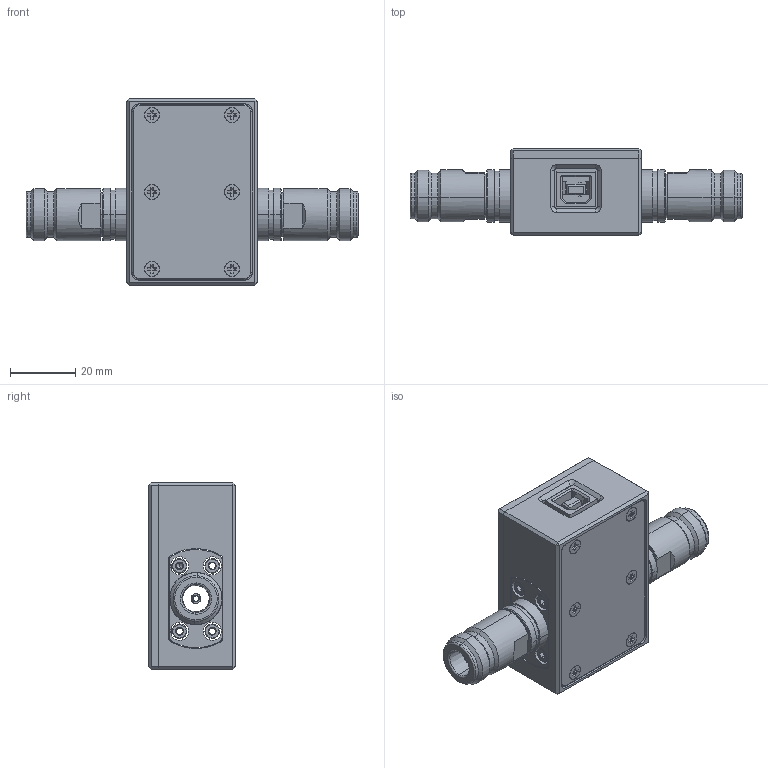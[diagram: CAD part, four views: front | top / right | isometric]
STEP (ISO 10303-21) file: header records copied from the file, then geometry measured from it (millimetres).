
FILE_DESCRIPTION (( 'STEP AP203' ), '1' );
FILE_NAME ('R0385.00.000-03 ACM2520 mod.011.STEP', '2020-06-10T09:31:59', ( '' ), ( '' ), 'SwSTEP 2.0', 'SolidWorks 2014', '' );
FILE_SCHEMA (( 'CONFIG_CONTROL_DESIGN' ));
Length unit declared in the file: millimetre
Products named in the file (1): R0385.00.000-03 ACM2520 mod.011
Bounding box: 101.44 x 26.6 x 57 mm (x, y, z)
Surface area: 21167 mm2 (no closed solid volume)
Topology: 0 solids, 45 shells, 694 faces, 2055 edges, 1402 vertices
Faces by surface type: plane 438, cylinder 118, cone 104, torus 34
Entity records: 23251 total; most frequent: CARTESIAN_POINT 4907, DIRECTION 3800, ORIENTED_EDGE 3383, EDGE_CURVE 2051, VERTEX_POINT 1402, VECTOR 1316, LINE 1316, AXIS2_PLACEMENT_3D 1242
